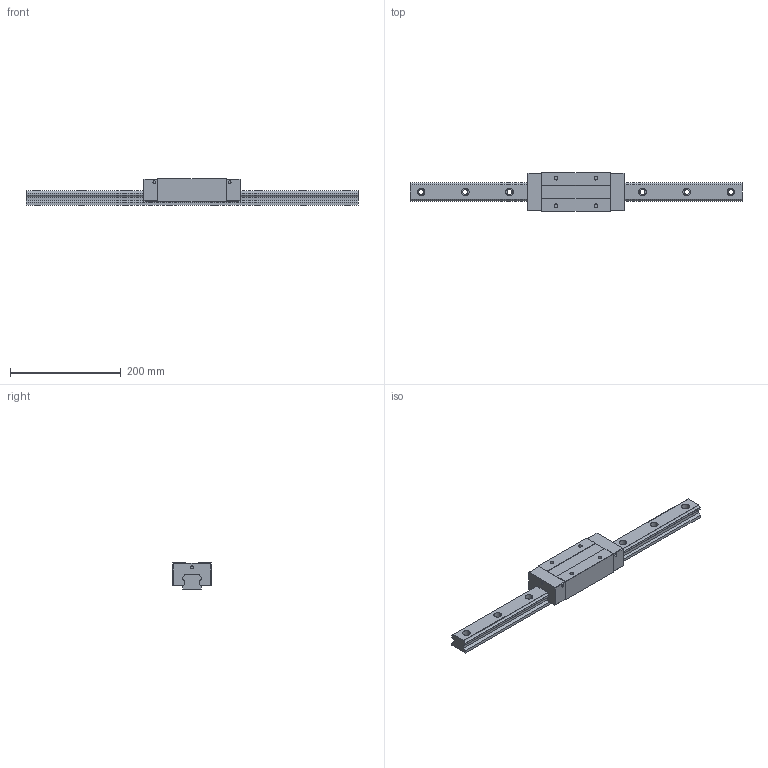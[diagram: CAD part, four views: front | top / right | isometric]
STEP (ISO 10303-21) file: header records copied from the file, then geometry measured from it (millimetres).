
FILE_DESCRIPTION (( 'STEP AP203' ), '1' );
FILE_NAME ('TRS35VE-WZ.STEP', '2024-06-12T07:22:02', ( '' ), ( '' ), 'SwSTEP 2.0', 'SolidWorks 2022', '' );
FILE_SCHEMA (( 'CONFIG_CONTROL_DESIGN' ));
Length unit declared in the file: millimetre
Products named in the file (1): TRS35VE-WZ
Bounding box: 600 x 70 x 48 mm (x, y, z)
Volume: 833112.8 mm3; surface area: 133755.4 mm2
Topology: 2 solids, 2 shells, 178 faces, 464 edges, 308 vertices
Faces by surface type: plane 90, cylinder 88
Entity records: 5619 total; most frequent: DIRECTION 998, CARTESIAN_POINT 951, ORIENTED_EDGE 928, EDGE_CURVE 464, AXIS2_PLACEMENT_3D 355, VERTEX_POINT 308, VECTOR 288, LINE 288
